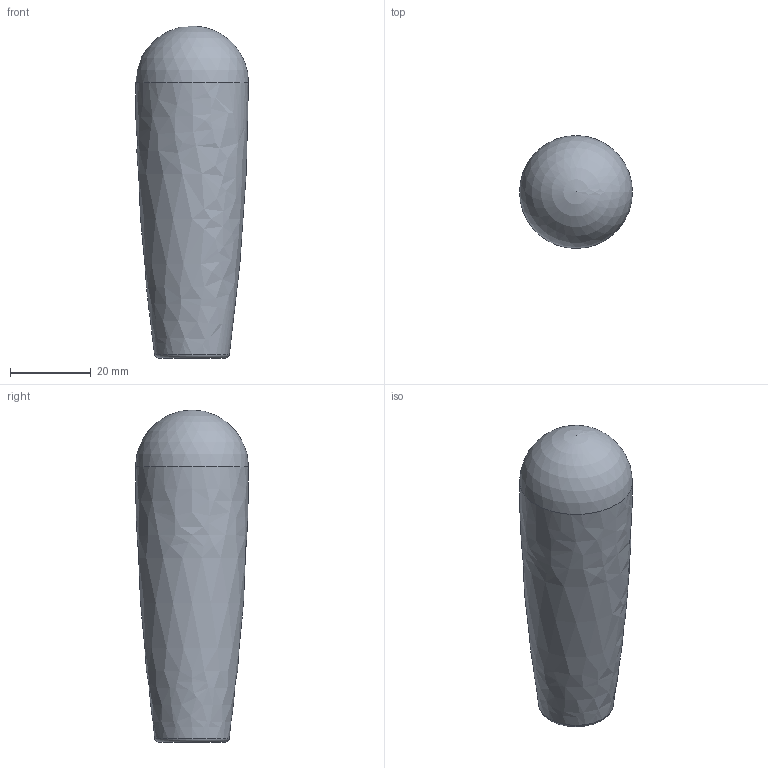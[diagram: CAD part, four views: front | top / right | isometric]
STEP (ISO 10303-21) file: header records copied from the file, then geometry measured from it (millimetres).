
FILE_DESCRIPTION( ('This file contains a STEP AP42 implementation' ,'as created by ZW3D STEP Interface translator.') ,'2;1' );
FILE_NAME( 'Galka owalna dluga B28.stp' ,'26 4 2.1359 0', (''), ('ZWCAD Software Co.'), 'Version 1.0', 'ZW3D to STEP translator', '' );
FILE_SCHEMA(('AP242_MANAGED_MODEL_BASED_3D_ENGINEERING_MIM_LF { 1 0 10303 442 1 1 4 }'));
Length unit declared in the file: millimetre
Products named in the file (1): 0
Bounding box: 28 x 28 x 82.3 mm (x, y, z)
Volume: 32773 mm3; surface area: 9174.5 mm2
Topology: 1 solids, 1 shells, 7 faces, 14 edges, 8 vertices
Faces by surface type: cylinder 2, torus 1, bspline 1, sphere 1, plane 1, cone 1
Full cylindrical faces by diameter (mm): 10.2 x2
Entity records: 231 total; most frequent: CARTESIAN_POINT 54, DIRECTION 35, ORIENTED_EDGE 24, AXIS2_PLACEMENT_3D 16, EDGE_CURVE 12, CIRCLE 9, VERTEX_POINT 8, EDGE_LOOP 8
